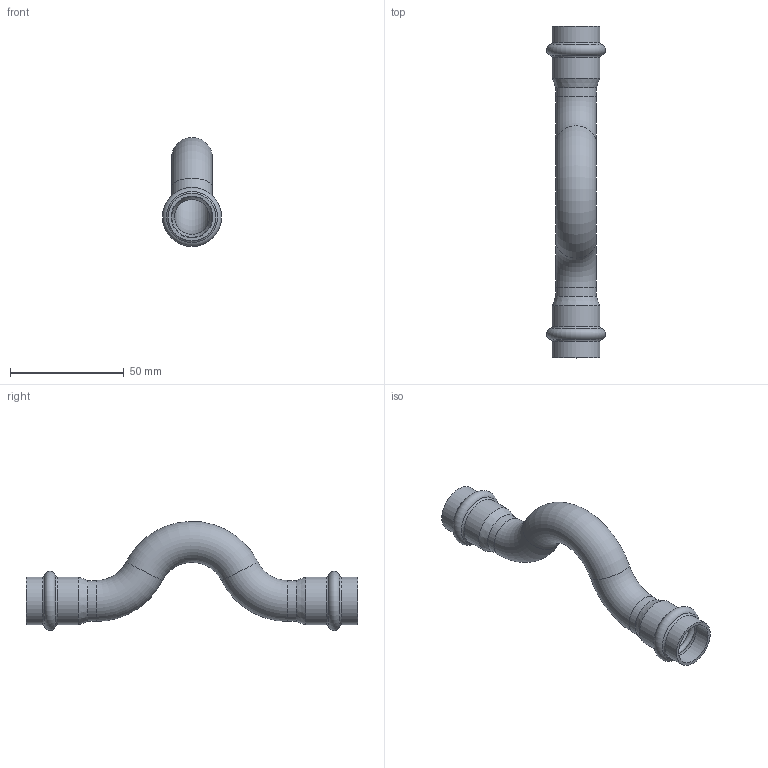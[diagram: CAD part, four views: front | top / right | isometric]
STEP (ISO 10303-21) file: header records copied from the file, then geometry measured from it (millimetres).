
FILE_DESCRIPTION(('STEP AP203'), '1');
FILE_NAME('VTi.971.I.001818', '', ('UNSPECIFIED'), ('UNSPECIFIED'), 'C3D Converter', 'C3D Toolkit', '');
FILE_SCHEMA(('CONFIG_CONTROL_DESIGN'));
Length unit declared in the file: millimetre
Products named in the file (1): ВР.302661.006.000 СБ
Bounding box: 25.99 x 146 x 47.97 mm (x, y, z)
Volume: 13661.7 mm3; surface area: 20437.7 mm2
Topology: 3 solids, 3 shells, 38 faces, 78 edges, 42 vertices
Faces by surface type: torus 20, cylinder 12, cone 4, plane 2
Full cylindrical faces by diameter (mm): 15.3 x2, 18 x2, 18.3 x4, 21 x4
Entity records: 840 total; most frequent: DIRECTION 158, CARTESIAN_POINT 119, ORIENTED_EDGE 80, AXIS2_PLACEMENT_3D 79, EDGE_LOOP 72, FACE_OUTER_BOUND 60, EDGE_CURVE 40, VERTEX_POINT 40
